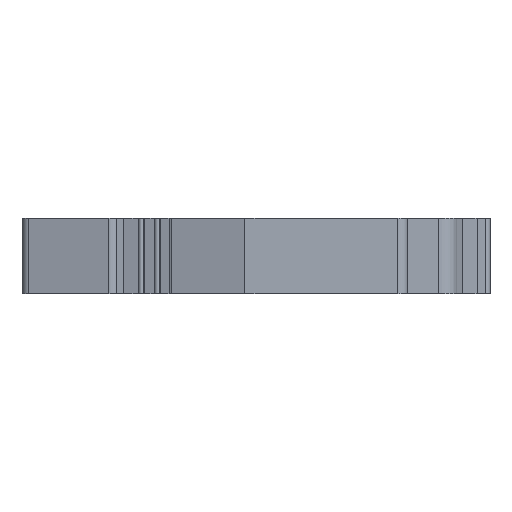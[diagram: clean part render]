
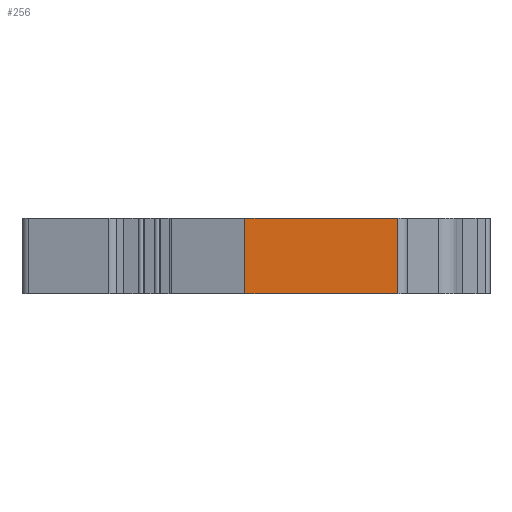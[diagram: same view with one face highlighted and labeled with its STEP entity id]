
A CAD part, left-side view. The second image highlights one B-rep face of the part: STEP entity #256.
In plain terms, the highlighted planar face has unit normal (-1, 0, 0).
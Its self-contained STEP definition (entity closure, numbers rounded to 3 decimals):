
#256=ADVANCED_FACE('',(#442),#331,.T.);
#331=PLANE('',#2457);
#442=FACE_OUTER_BOUND('',#554,.T.);
#554=EDGE_LOOP('',(#987,#988,#989,#990));
#987=ORIENTED_EDGE('',*,*,#1761,.F.);
#988=ORIENTED_EDGE('',*,*,#1760,.F.);
#989=ORIENTED_EDGE('',*,*,#1762,.T.);
#990=ORIENTED_EDGE('',*,*,#1763,.T.);
#1433=VERTEX_POINT('',#3739);
#1434=VERTEX_POINT('',#3741);
#1435=VERTEX_POINT('',#3745);
#1436=VERTEX_POINT('',#3747);
#1760=EDGE_CURVE('',#1434,#1433,#2015,.T.);
#1761=EDGE_CURVE('',#1433,#1435,#2016,.T.);
#1762=EDGE_CURVE('',#1434,#1436,#2017,.T.);
#1763=EDGE_CURVE('',#1436,#1435,#2018,.T.);
#2015=LINE('',#3742,#2268);
#2016=LINE('',#3744,#2269);
#2017=LINE('',#3746,#2270);
#2018=LINE('',#3748,#2271);
#2268=VECTOR('',#3072,1.);
#2269=VECTOR('',#3075,1.);
#2270=VECTOR('',#3076,1.);
#2271=VECTOR('',#3077,1.);
#2457=AXIS2_PLACEMENT_3D('',#3749,#3078,#3079);
#3072=DIRECTION('',(0.,0.,1.));
#3075=DIRECTION('',(0.,-1.,0.));
#3076=DIRECTION('',(0.,-1.,0.));
#3077=DIRECTION('',(0.,0.,1.));
#3078=DIRECTION('',(-1.,0.,0.));
#3079=DIRECTION('',(0.,0.,1.));
#3739=CARTESIAN_POINT('',(-699.476,-4158.489,0.));
#3741=CARTESIAN_POINT('',(-699.476,-4158.489,-8.2));
#3742=CARTESIAN_POINT('',(-699.476,-4158.489,-8.2));
#3744=CARTESIAN_POINT('',(-699.476,-4158.489,0.));
#3745=CARTESIAN_POINT('',(-699.476,-4175.089,0.));
#3746=CARTESIAN_POINT('',(-699.476,-4158.489,-8.2));
#3747=CARTESIAN_POINT('',(-699.476,-4175.089,-8.2));
#3748=CARTESIAN_POINT('',(-699.476,-4175.089,-8.2));
#3749=CARTESIAN_POINT('',(-699.476,-4158.489,-8.2));
